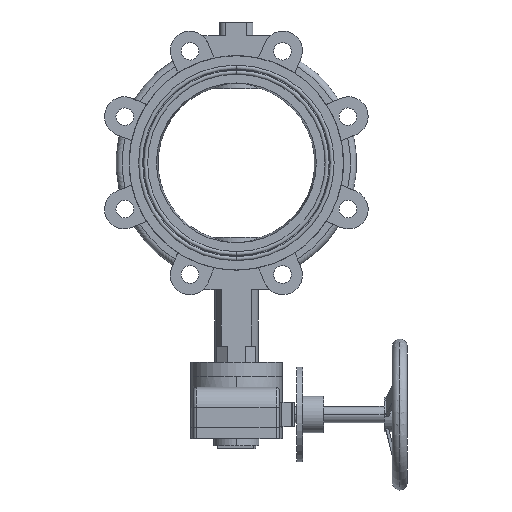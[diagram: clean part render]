
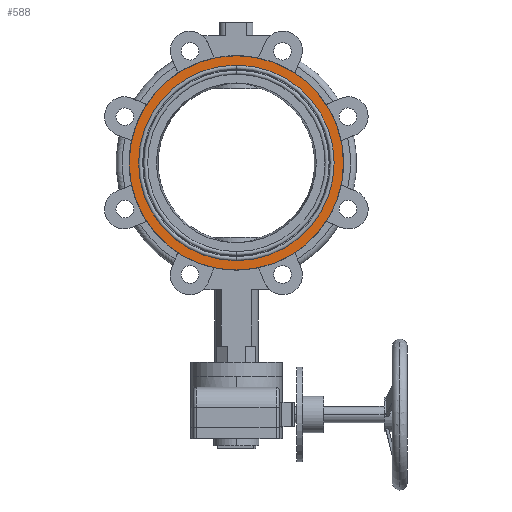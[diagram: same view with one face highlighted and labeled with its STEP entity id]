
A CAD part, front view. The second image highlights one B-rep face of the part: STEP entity #588.
In plain terms, the highlighted planar face has unit normal (0, -1, 0).
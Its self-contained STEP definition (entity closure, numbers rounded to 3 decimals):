
#49 = CIRCLE ( 'NONE', #7966, 97.165 ) ;
#175 = DIRECTION ( 'NONE',  ( 0., 1., 0. ) ) ;
#305 = DIRECTION ( 'NONE',  ( 0., 1., 0. ) ) ;
#588 = ADVANCED_FACE ( 'NONE', ( #6947, #7117 ), #5333, .T. ) ;
#1104 = ORIENTED_EDGE ( 'NONE', *, *, #2347, .F. ) ;
#1547 = ORIENTED_EDGE ( 'NONE', *, *, #7482, .F. ) ;
#1879 = EDGE_LOOP ( 'NONE', ( #9124, #1547 ) ) ;
#2119 = CARTESIAN_POINT ( 'NONE',  ( 106.5, -28., 0. ) ) ;
#2347 = EDGE_CURVE ( 'NONE', #9306, #8608, #49, .T. ) ;
#2600 = EDGE_CURVE ( 'NONE', #8608, #9306, #9634, .T. ) ;
#2726 = DIRECTION ( 'NONE',  ( 0., -1., 0. ) ) ;
#2798 = CARTESIAN_POINT ( 'NONE',  ( -97.165, -28., 0. ) ) ;
#3818 = DIRECTION ( 'NONE',  ( 0., 0., -1. ) ) ;
#4170 = VERTEX_POINT ( 'NONE', #10720 ) ;
#4175 = DIRECTION ( 'NONE',  ( 0., -1., 0. ) ) ;
#4560 = CARTESIAN_POINT ( 'NONE',  ( 0., -28., 0. ) ) ;
#4579 = VERTEX_POINT ( 'NONE', #2119 ) ;
#4860 = CARTESIAN_POINT ( 'NONE',  ( 0., -28., 0. ) ) ;
#5128 = AXIS2_PLACEMENT_3D ( 'NONE', #4560, #175, #7213 ) ;
#5333 = PLANE ( 'NONE',  #9666 ) ;
#6008 = CIRCLE ( 'NONE', #8599, 106.5 ) ;
#6947 = FACE_OUTER_BOUND ( 'NONE', #1879, .T. ) ;
#7117 = FACE_BOUND ( 'NONE', #7615, .T. ) ;
#7213 = DIRECTION ( 'NONE',  ( 0., 0., -1. ) ) ;
#7482 = EDGE_CURVE ( 'NONE', #4579, #4170, #6008, .T. ) ;
#7615 = EDGE_LOOP ( 'NONE', ( #9756, #1104 ) ) ;
#7966 = AXIS2_PLACEMENT_3D ( 'NONE', #10396, #4175, #9531 ) ;
#7971 = DIRECTION ( 'NONE',  ( 0., 0., -1. ) ) ;
#8214 = CARTESIAN_POINT ( 'NONE',  ( 0., -28., 0. ) ) ;
#8266 = DIRECTION ( 'NONE',  ( 0., 0., -1. ) ) ;
#8352 = AXIS2_PLACEMENT_3D ( 'NONE', #4860, #9297, #8266 ) ;
#8599 = AXIS2_PLACEMENT_3D ( 'NONE', #8214, #305, #3818 ) ;
#8601 = EDGE_CURVE ( 'NONE', #4170, #4579, #10276, .T. ) ;
#8608 = VERTEX_POINT ( 'NONE', #10733 ) ;
#9124 = ORIENTED_EDGE ( 'NONE', *, *, #8601, .F. ) ;
#9297 = DIRECTION ( 'NONE',  ( 0., -1., 0. ) ) ;
#9306 = VERTEX_POINT ( 'NONE', #2798 ) ;
#9531 = DIRECTION ( 'NONE',  ( 0., 0., -1. ) ) ;
#9634 = CIRCLE ( 'NONE', #8352, 97.165 ) ;
#9666 = AXIS2_PLACEMENT_3D ( 'NONE', #10460, #2726, #7971 ) ;
#9756 = ORIENTED_EDGE ( 'NONE', *, *, #2600, .F. ) ;
#10276 = CIRCLE ( 'NONE', #5128, 106.5 ) ;
#10396 = CARTESIAN_POINT ( 'NONE',  ( 0., -28., 0. ) ) ;
#10460 = CARTESIAN_POINT ( 'NONE',  ( 97., -28., 0. ) ) ;
#10720 = CARTESIAN_POINT ( 'NONE',  ( -106.5, -28., 0. ) ) ;
#10733 = CARTESIAN_POINT ( 'NONE',  ( 97.165, -28., 0. ) ) ;
